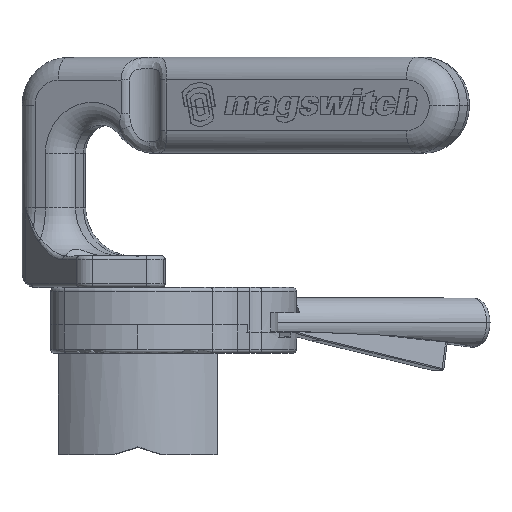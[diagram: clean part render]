
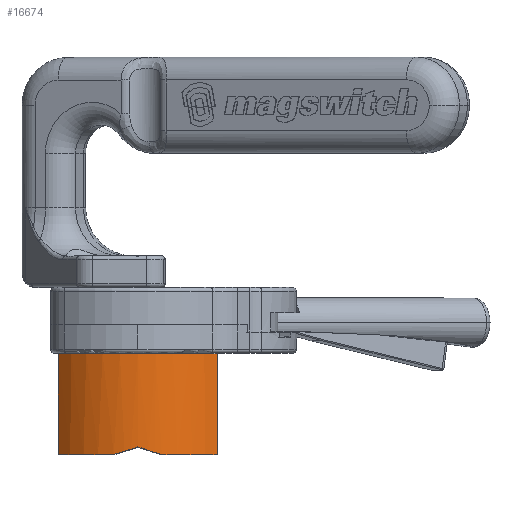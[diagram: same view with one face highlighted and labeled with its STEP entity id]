
A CAD part, top view. The second image highlights one B-rep face of the part: STEP entity #16674.
In plain terms, the highlighted cylindrical face has radius 28 mm (diameter 56 mm), a partial arc.
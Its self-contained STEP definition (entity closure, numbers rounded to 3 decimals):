
#96 = VERTEX_POINT ( 'NONE', #6270 ) ;
#342 = AXIS2_PLACEMENT_3D ( 'NONE', #28269, #3873, #32317 ) ;
#369 = DIRECTION ( 'NONE',  ( 0., -1., 0. ) ) ;
#510 = ORIENTED_EDGE ( 'NONE', *, *, #31875, .T. ) ;
#1370 = CARTESIAN_POINT ( 'NONE',  ( 0., 27.7, 0. ) ) ;
#2976 = CARTESIAN_POINT ( 'NONE',  ( 0., 1., 0. ) ) ;
#3873 = DIRECTION ( 'NONE',  ( 0., -1., 0. ) ) ;
#4221 = FACE_OUTER_BOUND ( 'NONE', #36407, .T. ) ;
#4652 = LINE ( 'NONE', #30230, #46662 ) ;
#5427 = DIRECTION ( 'NONE',  ( 0., 0., 1. ) ) ;
#6270 = CARTESIAN_POINT ( 'NONE',  ( 21., 1., 18.52 ) ) ;
#7021 = DIRECTION ( 'NONE',  ( 0., 0., -1. ) ) ;
#7446 = ORIENTED_EDGE ( 'NONE', *, *, #52070, .F. ) ;
#8917 = CARTESIAN_POINT ( 'NONE',  ( 6.343, 1., 27.272 ) ) ;
#9147 = CARTESIAN_POINT ( 'NONE',  ( 2.138, 2.326, 28. ) ) ;
#10138 = CARTESIAN_POINT ( 'NONE',  ( -4.261, 1.656, 27.756 ) ) ;
#10997 = CARTESIAN_POINT ( 'NONE',  ( -21., 27.7, 18.52 ) ) ;
#11105 = ORIENTED_EDGE ( 'NONE', *, *, #20996, .T. ) ;
#12540 = CARTESIAN_POINT ( 'NONE',  ( 0., 27.8, 0. ) ) ;
#13233 = CARTESIAN_POINT ( 'NONE',  ( 0., 3., 28. ) ) ;
#13635 = CIRCLE ( 'NONE', #17617, 28. ) ;
#14226 = CARTESIAN_POINT ( 'NONE',  ( 0., 3., 28. ) ) ;
#16463 = VERTEX_POINT ( 'NONE', #38956 ) ;
#16613 = DIRECTION ( 'NONE',  ( 0., -1., 0. ) ) ;
#16674 = ADVANCED_FACE ( 'NONE', ( #4221 ), #35416, .T. ) ;
#17346 = CARTESIAN_POINT ( 'NONE',  ( 4.261, 1.656, 27.756 ) ) ;
#17617 = AXIS2_PLACEMENT_3D ( 'NONE', #2976, #31412, #7021 ) ;
#19233 = EDGE_CURVE ( 'NONE', #16463, #36434, #41642, .T. ) ;
#20769 = DIRECTION ( 'NONE',  ( 0., 0., -1. ) ) ;
#20893 = ORIENTED_EDGE ( 'NONE', *, *, #19233, .T. ) ;
#20996 = EDGE_CURVE ( 'NONE', #96, #39727, #4652, .T. ) ;
#21917 = CARTESIAN_POINT ( 'NONE',  ( 0., 3., 28. ) ) ;
#27251 = AXIS2_PLACEMENT_3D ( 'NONE', #1370, #29797, #5427 ) ;
#28269 = CARTESIAN_POINT ( 'NONE',  ( 0., 1., 0. ) ) ;
#28711 = ORIENTED_EDGE ( 'NONE', *, *, #30170, .T. ) ;
#29063 = LINE ( 'NONE', #36880, #50598 ) ;
#29797 = DIRECTION ( 'NONE',  ( 0., -1., 0. ) ) ;
#30170 = EDGE_CURVE ( 'NONE', #36434, #43660, #34754, .T. ) ;
#30230 = CARTESIAN_POINT ( 'NONE',  ( 21., 27.8, 18.52 ) ) ;
#31412 = DIRECTION ( 'NONE',  ( 0., -1., 0. ) ) ;
#31875 = EDGE_CURVE ( 'NONE', #41469, #49513, #29063, .T. ) ;
#32317 = DIRECTION ( 'NONE',  ( 0., 0., -1. ) ) ;
#33078 = ORIENTED_EDGE ( 'NONE', *, *, #45190, .T. ) ;
#34318 = DIRECTION ( 'NONE',  ( 0., 1., 0. ) ) ;
#34538 = ORIENTED_EDGE ( 'NONE', *, *, #47694, .F. ) ;
#34545 = CARTESIAN_POINT ( 'NONE',  ( -6.343, 1., 27.272 ) ) ;
#34754 =( BOUNDED_CURVE ( )  B_SPLINE_CURVE ( 3, ( #13233, #9147, #17346, #45783 ),
 .UNSPECIFIED., .F., .T. ) 
 B_SPLINE_CURVE_WITH_KNOTS ( ( 4, 4 ),
 ( 4.712, 4.941 ),
 .UNSPECIFIED. ) 
 CURVE ( )  GEOMETRIC_REPRESENTATION_ITEM ( )  RATIONAL_B_SPLINE_CURVE ( ( 1., 0.996, 0.996, 1. ) ) 
 REPRESENTATION_ITEM ( '' )  );
#35416 = CYLINDRICAL_SURFACE ( 'NONE', #38022, 28. ) ;
#36407 = EDGE_LOOP ( 'NONE', ( #11105, #33078, #510, #7446, #20893, #28711, #34538 ) ) ;
#36434 = VERTEX_POINT ( 'NONE', #21917 ) ;
#36631 = CARTESIAN_POINT ( 'NONE',  ( -21., 1., 18.52 ) ) ;
#36880 = CARTESIAN_POINT ( 'NONE',  ( -21., 27.8, 18.52 ) ) ;
#38022 = AXIS2_PLACEMENT_3D ( 'NONE', #12540, #369, #20769 ) ;
#38600 = CARTESIAN_POINT ( 'NONE',  ( -2.138, 2.326, 28. ) ) ;
#38956 = CARTESIAN_POINT ( 'NONE',  ( -6.343, 1., 27.272 ) ) ;
#39727 = VERTEX_POINT ( 'NONE', #42064 ) ;
#41469 = VERTEX_POINT ( 'NONE', #10997 ) ;
#41642 =( BOUNDED_CURVE ( )  B_SPLINE_CURVE ( 3, ( #34545, #10138, #38600, #14226 ),
 .UNSPECIFIED., .F., .F. ) 
 B_SPLINE_CURVE_WITH_KNOTS ( ( 4, 4 ),
 ( 1.342, 1.571 ),
 .UNSPECIFIED. ) 
 CURVE ( )  GEOMETRIC_REPRESENTATION_ITEM ( )  RATIONAL_B_SPLINE_CURVE ( ( 1., 0.996, 0.996, 1. ) ) 
 REPRESENTATION_ITEM ( '' )  );
#41985 = CIRCLE ( 'NONE', #342, 28. ) ;
#42064 = CARTESIAN_POINT ( 'NONE',  ( 21., 27.7, 18.52 ) ) ;
#43660 = VERTEX_POINT ( 'NONE', #8917 ) ;
#45190 = EDGE_CURVE ( 'NONE', #39727, #41469, #52238, .T. ) ;
#45783 = CARTESIAN_POINT ( 'NONE',  ( 6.343, 1., 27.272 ) ) ;
#46662 = VECTOR ( 'NONE', #34318, 1000. ) ;
#47694 = EDGE_CURVE ( 'NONE', #96, #43660, #41985, .T. ) ;
#49513 = VERTEX_POINT ( 'NONE', #36631 ) ;
#50598 = VECTOR ( 'NONE', #16613, 1000. ) ;
#52070 = EDGE_CURVE ( 'NONE', #16463, #49513, #13635, .T. ) ;
#52238 = CIRCLE ( 'NONE', #27251, 28. ) ;
